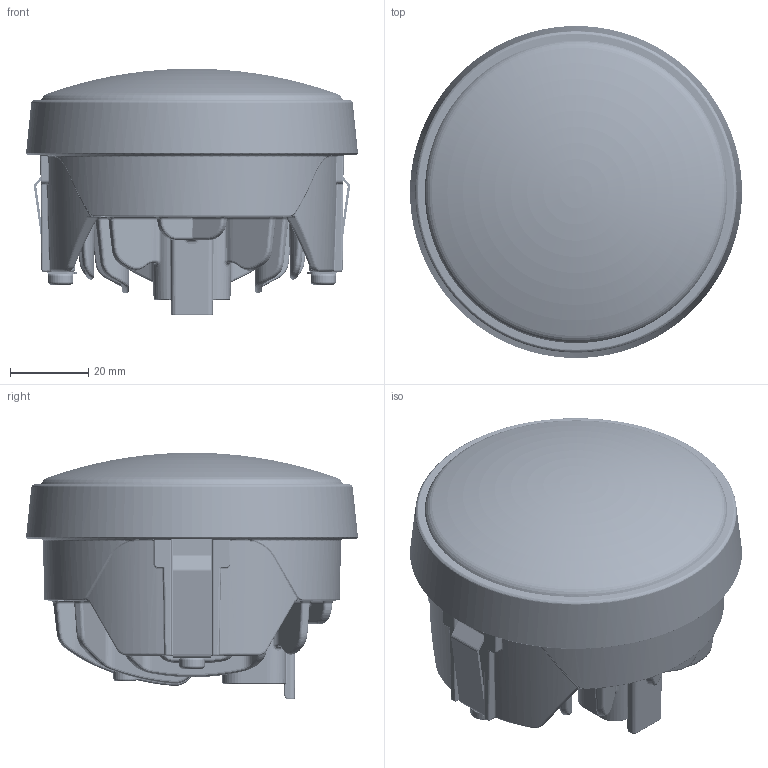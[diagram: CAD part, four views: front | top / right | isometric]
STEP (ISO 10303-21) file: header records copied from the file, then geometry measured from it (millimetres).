
FILE_DESCRIPTION(('HOOPS Exchange Step'),'2;1');
FILE_NAME('\\?\C:\Users\koerju1\FORVIA\Welcome to the SOE Marketing Team Site - Marketing Internal\Online\Microsite\04 PRODUKTE\5_Work lamps\2_1,250 lm - 2,500 lm\1_Module-70-S-series\Downloads_Module_70_S-series\FORVIA_HELLA_3D_data_Module_70_S_series_flush-mounting_1G.stp','2025-01-22T14:32:25+01:00',('koerju1'),('Unknown organisation'),'HOOPS Exchange 2024.5','HOOPS Exchange','Unknown authorisation');
FILE_SCHEMA( ('AUTOMOTIVE_DESIGN { 1 0 10303 214 1 1 1 1 }') );
Length unit declared in the file: millimetre
Products named in the file (1): 10003173110_D10_001
Bounding box: 84.62 x 84.62 x 62.85 mm (x, y, z)
Surface area: 34841.9 mm2 (no closed solid volume)
Topology: 0 solids, 1059 shells, 41022 faces, 68402 edges, 28169 vertices
Faces by surface type: plane 41022
Entity records: 356377 total; most frequent: DIRECTION 82046, CARTESIAN_POINT 69192, AXIS2_PLACEMENT_3D 41023, PLANE 41022, POLY_LOOP 41022, FACE_OUTER_BOUND 41022, FACE_SURFACE 41022, PLANE_ANGLE_MEASURE_WITH_UNIT 1
